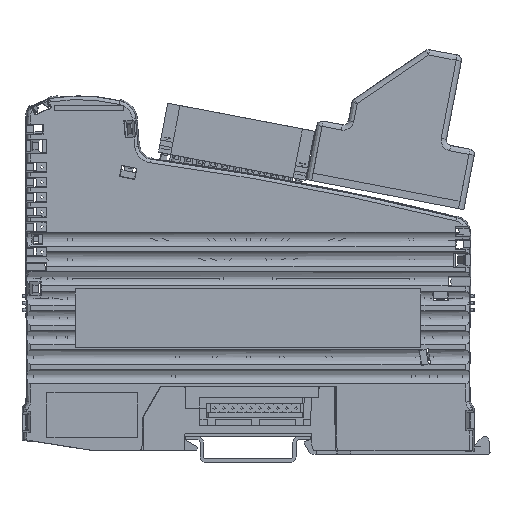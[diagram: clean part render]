
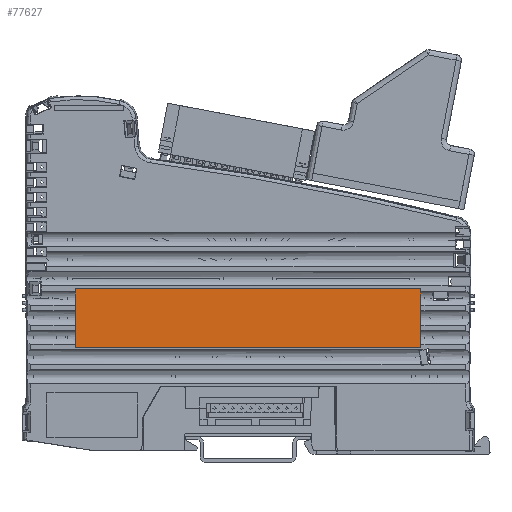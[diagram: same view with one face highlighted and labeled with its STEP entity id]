
A CAD part, left-side view. The second image highlights one B-rep face of the part: STEP entity #77627.
In plain terms, the highlighted planar face has unit normal (-1, 0, 0).
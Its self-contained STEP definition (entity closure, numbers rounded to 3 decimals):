
#8219=ORIENTED_EDGE('',*,*,#29378,.T.);
#8220=ORIENTED_EDGE('',*,*,#29377,.T.);
#8221=ORIENTED_EDGE('',*,*,#29380,.T.);
#8222=ORIENTED_EDGE('',*,*,#29372,.T.);
#8223=ORIENTED_EDGE('',*,*,#29374,.T.);
#8224=ORIENTED_EDGE('',*,*,#29375,.T.);
#8225=ORIENTED_EDGE('',*,*,#29381,.T.);
#8226=ORIENTED_EDGE('',*,*,#29382,.T.);
#8227=ORIENTED_EDGE('',*,*,#29383,.T.);
#8228=ORIENTED_EDGE('',*,*,#29379,.T.);
#29372=EDGE_CURVE('',#40231,#39365,#48117,.T.);
#29374=EDGE_CURVE('',#39365,#39372,#48119,.T.);
#29375=EDGE_CURVE('',#39372,#39375,#48120,.T.);
#29377=EDGE_CURVE('',#40228,#40232,#48122,.T.);
#29378=EDGE_CURVE('',#40229,#40228,#48123,.T.);
#29379=EDGE_CURVE('',#40230,#40229,#48124,.T.);
#29380=EDGE_CURVE('',#40232,#40231,#48125,.T.);
#29381=EDGE_CURVE('',#39375,#40233,#48126,.T.);
#29382=EDGE_CURVE('',#40233,#40234,#48127,.T.);
#29383=EDGE_CURVE('',#40234,#40230,#48128,.T.);
#39365=VERTEX_POINT('',#121592);
#39372=VERTEX_POINT('',#121697);
#39375=VERTEX_POINT('',#121804);
#40228=VERTEX_POINT('',#126657);
#40229=VERTEX_POINT('',#126661);
#40230=VERTEX_POINT('',#126665);
#40231=VERTEX_POINT('',#126670);
#40232=VERTEX_POINT('',#126678);
#40233=VERTEX_POINT('',#126687);
#40234=VERTEX_POINT('',#126689);
#48117=LINE('',#126669,#56868);
#48119=LINE('',#126673,#56870);
#48120=LINE('',#126675,#56871);
#48122=LINE('',#126679,#56873);
#48123=LINE('',#126681,#56874);
#48124=LINE('',#126683,#56875);
#48125=LINE('',#126685,#56876);
#48126=LINE('',#126686,#56877);
#48127=LINE('',#126688,#56878);
#48128=LINE('',#126690,#56879);
#56868=VECTOR('',#102590,1000.);
#56870=VECTOR('',#102594,1000.);
#56871=VECTOR('',#102597,1000.);
#56873=VECTOR('',#102601,1000.);
#56874=VECTOR('',#102604,1000.);
#56875=VECTOR('',#102607,1000.);
#56876=VECTOR('',#102610,1000.);
#56877=VECTOR('',#102611,1000.);
#56878=VECTOR('',#102612,1000.);
#56879=VECTOR('',#102613,1000.);
#64680=EDGE_LOOP('',(#8219,#8220,#8221,#8222,#8223,#8224,#8225,#8226,#8227,
#8228));
#69588=FACE_BOUND('',#64680,.T.);
#74305=PLANE('',#93864);
#77627=ADVANCED_FACE('',(#69588),#74305,.T.);
#93864=AXIS2_PLACEMENT_3D('',#126684,#102608,#102609);
#102590=DIRECTION('',(0.,0.,-1.));
#102594=DIRECTION('',(0.,0.,-1.));
#102597=DIRECTION('',(0.,0.,-1.));
#102601=DIRECTION('',(0.,0.,1.));
#102604=DIRECTION('',(0.,0.,1.));
#102607=DIRECTION('',(0.,0.,1.));
#102608=DIRECTION('',(-1.,0.,0.));
#102609=DIRECTION('',(0.,-1.,0.));
#102610=DIRECTION('',(0.,1.,0.));
#102611=DIRECTION('',(0.,0.,-1.));
#102612=DIRECTION('',(0.,-1.,0.));
#102613=DIRECTION('',(0.,0.,1.));
#121592=CARTESIAN_POINT('',(-11.5,48.483,42.8));
#121697=CARTESIAN_POINT('',(-11.5,48.483,37.3));
#121804=CARTESIAN_POINT('',(-11.5,48.483,31.8));
#126657=CARTESIAN_POINT('',(-11.5,-48.483,42.8));
#126661=CARTESIAN_POINT('',(-11.5,-48.483,37.3));
#126665=CARTESIAN_POINT('',(-11.5,-48.483,31.8));
#126669=CARTESIAN_POINT('',(-11.5,48.483,29.));
#126670=CARTESIAN_POINT('',(-11.5,48.483,45.483));
#126673=CARTESIAN_POINT('',(-11.5,48.483,29.));
#126675=CARTESIAN_POINT('',(-11.5,48.483,29.));
#126678=CARTESIAN_POINT('',(-11.5,-48.483,45.483));
#126679=CARTESIAN_POINT('',(-11.5,-48.483,29.));
#126681=CARTESIAN_POINT('',(-11.5,-48.483,29.));
#126683=CARTESIAN_POINT('',(-11.5,-48.483,29.));
#126684=CARTESIAN_POINT('',(-11.5,48.5,29.));
#126685=CARTESIAN_POINT('',(-11.5,48.5,45.483));
#126686=CARTESIAN_POINT('',(-11.5,48.483,29.));
#126687=CARTESIAN_POINT('',(-11.5,48.483,29.017));
#126688=CARTESIAN_POINT('',(-11.5,48.5,29.017));
#126689=CARTESIAN_POINT('',(-11.5,-48.483,29.017));
#126690=CARTESIAN_POINT('',(-11.5,-48.483,29.));
